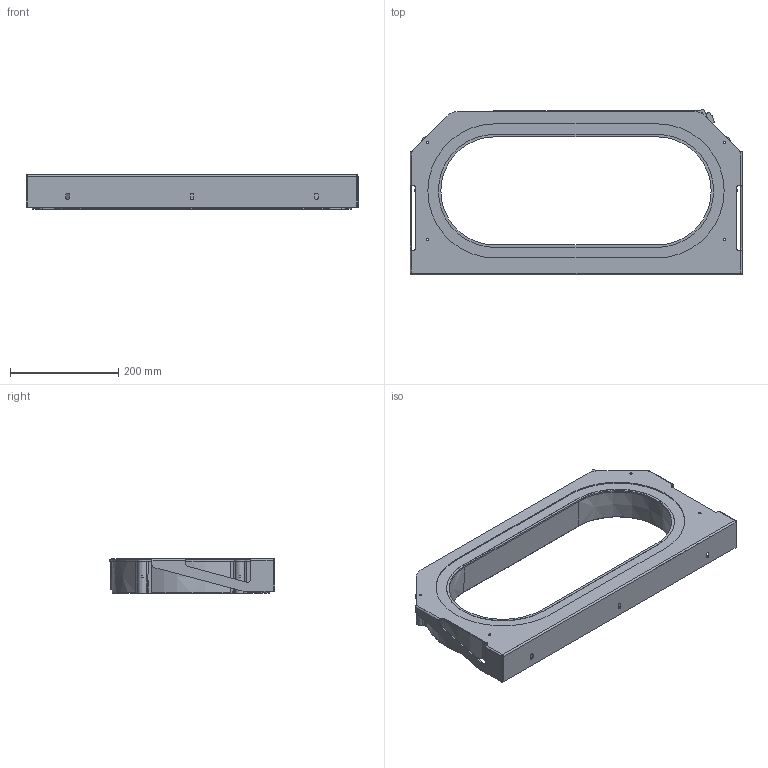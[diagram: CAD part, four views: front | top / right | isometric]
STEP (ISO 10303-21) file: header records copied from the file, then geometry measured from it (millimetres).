
FILE_DESCRIPTION((''),'2;1');
FILE_NAME('C_14664_200X500','2020-11-09T12:06:15',('esors'),(''),'CREO PARAMETRIC BY PTC INC, 2018260','CREO PARAMETRIC BY PTC INC, 2018260','');
FILE_SCHEMA(('AUTOMOTIVE_DESIGN { 1 0 10303 214 1 1 1 1 }'));
Length unit declared in the file: millimetre
Products named in the file (1): C_14664_200X500
Bounding box: 614 x 306 x 64 mm (x, y, z)
Volume: 3798057.1 mm3; surface area: 557392.3 mm2
Topology: 4 solids, 5 shells, 574 faces, 1550 edges, 1025 vertices
Faces by surface type: plane 252, cylinder 199, cone 39, bspline 39, torus 34, extrusion 8, sphere 3
Entity records: 28321 total; most frequent: CARTESIAN_POINT 7488, ORIENTED_EDGE 3082, DIRECTION 2860, COLOUR_RGB 1579, PRESENTATION_STYLE_ASSIGNMENT 1552, STYLED_ITEM 1552, CURVE_STYLE 1547, EDGE_CURVE 1547
